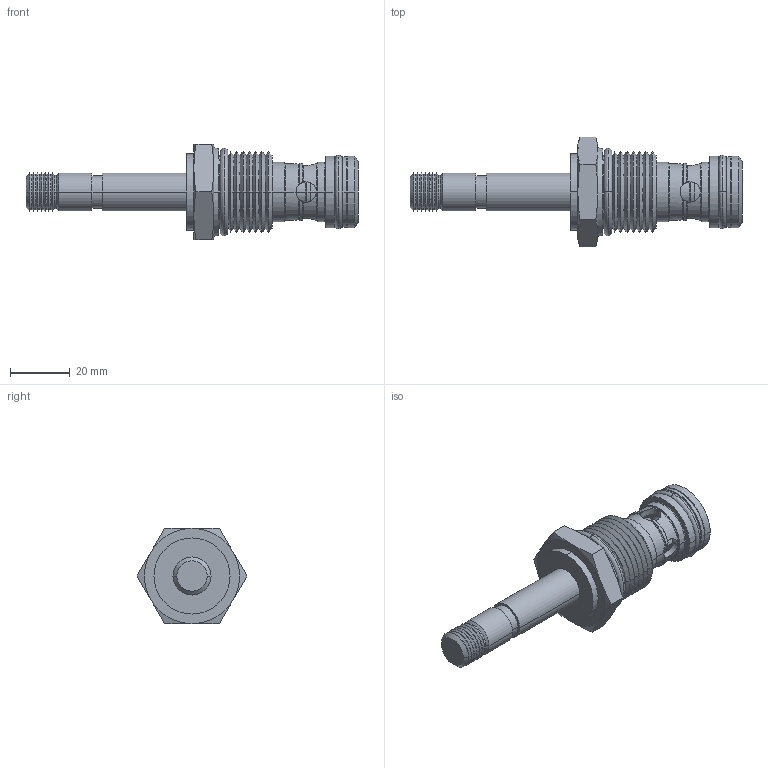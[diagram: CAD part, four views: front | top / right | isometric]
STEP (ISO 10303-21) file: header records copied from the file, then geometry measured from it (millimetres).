
FILE_DESCRIPTION((''),'2;1');
FILE_NAME('U:\Solid model CD\Solid model full\Solenoid\STEP\TTS2C00-3D Full.stp','2008-06-23T13:05:12',('Dan'),(''),'Autodesk Inventor 9','Autodesk Inventor 9','');
FILE_SCHEMA(('AUTOMOTIVE_DESIGN { 1 0 10303 214 1 1 1 1 }'));
Length unit declared in the file: inch
Products named in the file (5): TTS2C00-3D Full; TTS2C00-3D Full1; TTS2C00-3D Full2; TTS2C00-3D Full3; TTS2C00-3D Full4
Assembly tree (4 placements, depth 2):
  TTS2C00-3D Full
    TTS2C00-3D Full1
    TTS2C00-3D Full2
    TTS2C00-3D Full3
    TTS2C00-3D Full4
Bounding box: 110.78 x 36.66 x 31.75 mm (x, y, z)
Volume: 31231.5 mm3; surface area: 12626.7 mm2
Topology: 4 solids, 4 shells, 208 faces, 480 edges, 290 vertices
Faces by surface type: bspline 208
Entity records: 9200 total; most frequent: CARTESIAN_POINT 5091, ORIENTED_EDGE 960, DIRECTION 676, EDGE_CURVE 480, VERTEX_POINT 290, AXIS2_PLACEMENT_3D 263, CIRCLE 254, EDGE_LOOP 232
